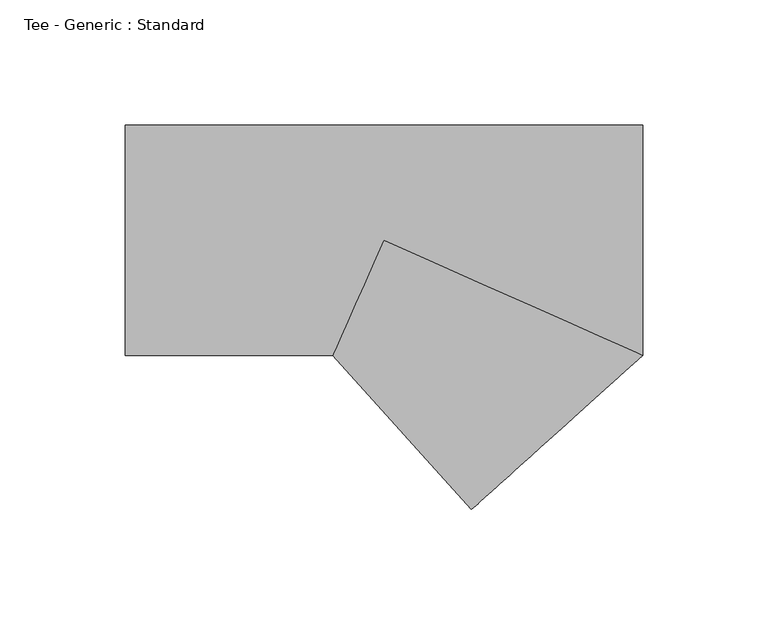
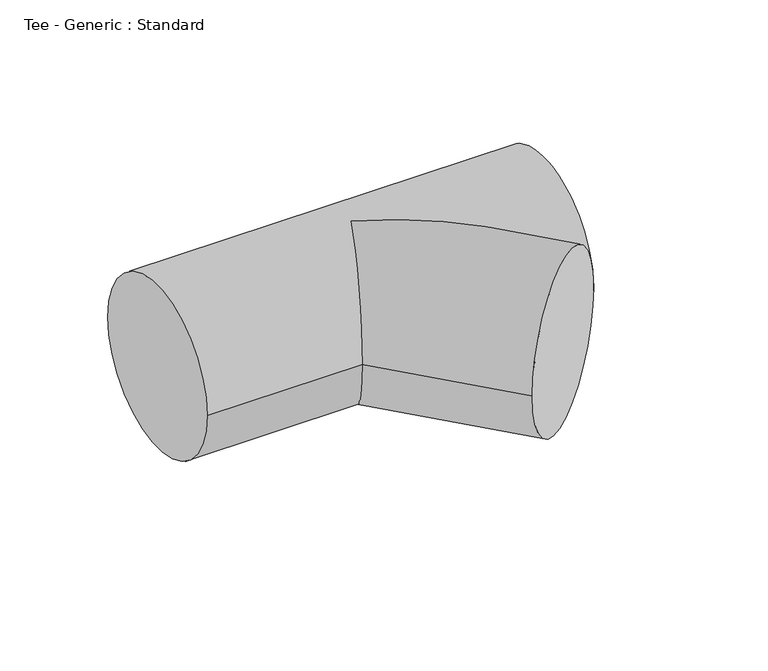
"""IFC4 building model written with IfcOpenShell, lengths in millimetres: pipe fitting geometry, Tee - Generic : Standard."""

from ifc_helpers import new_model, si_unit, frame, origin, place, context, project, spatial, circle_curve, ellipse_curve, source, transform, mapped, element, save
from ifc_brep_helpers import plane_surface, cylinder_surface, advanced_brep


def tee_generic_standard_8743326e(model_context):
    return source(origin(), model_context, "Body", "AdvancedBrep", [
        advanced_brep(
        [(-103.3828409, -46.0375, 0.0), (-103.3828409, 46.0375, 0.0), (103.3828409, -46.0375, 0.0), (103.3828409, 46.0375, 0.0), (-20.5009979, -46.0375, 0.0), (0.0, 0.0, 46.0375), (0.0, 0.0, -46.0375), (34.9493333, -107.638317, 0.0)],
        [
            (0, 1, circle_curve(frame((-103.3828409, 0.0, 0.0), z_axis=(-1.0, 0.0, 0.0), x_axis=(0.0, 1.0, 0.0)), 46.0375)),
            (1, 0, circle_curve(frame((-103.3828409, 0.0, 0.0), z_axis=(-1.0, 0.0, 0.0), x_axis=(0.0, 1.0, 0.0)), 46.0375)),
            (2, 3, circle_curve(frame((103.3828409, 0.0, 0.0), z_axis=(1.0, 0.0, 0.0), x_axis=(0.0, 1.0, 0.0)), 46.0375)),
            (3, 2, circle_curve(frame((103.3828409, 0.0, 0.0), z_axis=(1.0, 0.0, 0.0), x_axis=(0.0, 1.0, 0.0)), 46.0375)),
            (0, 4),
            (4, 5, ellipse_curve(frame((0.0, 0.0, 0.0), z_axis=(-0.9135175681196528, 0.4067992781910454, 0.0), x_axis=(-0.40679927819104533, -0.9135175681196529, 0.0)), 50.3958562, 46.0375)),
            (5, 2, ellipse_curve(frame((0.0, 0.0, 0.0), z_axis=(0.40679927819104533, 0.9135175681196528, 0.0), x_axis=(-0.9135175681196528, 0.4067992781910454, 0.0)), 113.1700631, 46.0375)),
            (3, 1),
            (2, 6, ellipse_curve(frame((0.0, 0.0, 0.0), z_axis=(0.40679927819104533, 0.9135175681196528, 0.0), x_axis=(-0.9135175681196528, 0.4067992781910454, 0.0)), 113.1700631, 46.0375)),
            (6, 4, ellipse_curve(frame((0.0, 0.0, 0.0), z_axis=(-0.9135175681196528, 0.4067992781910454, 0.0), x_axis=(-0.40679927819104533, -0.9135175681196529, 0.0)), 50.3958562, 46.0375)),
            (7, 2, circle_curve(frame((69.1660871, -76.8379085, 0.0), z_axis=(0.6690286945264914, -0.7432365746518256, 0.0), x_axis=(0.7432365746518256, 0.6690286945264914, 0.0)), 46.0375)),
            (2, 7, circle_curve(frame((69.1660871, -76.8379085, 0.0), z_axis=(0.6690286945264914, -0.7432365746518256, 0.0), x_axis=(0.7432365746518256, 0.6690286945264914, 0.0)), 46.0375)),
            (4, 7),
        ],
        [
            plane_surface(frame((-103.3828409, 0.0, 0.0), z_axis=(-1.0, 0.0, 0.0), x_axis=(0.0, 0.0, 1.0))),
            plane_surface(frame((103.3828409, 0.0, 0.0), z_axis=(1.0, 0.0, 0.0), x_axis=(0.0, 0.0, 1.0))),
            cylinder_surface(frame((-103.3828409, 0.0, 0.0), z_axis=(-1.0, 0.0, 0.0), x_axis=(0.0, 1.0, 0.0)), 46.0375),
            plane_surface(frame((69.1660871, -76.8379085, 0.0), z_axis=(0.6690286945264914, -0.7432365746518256, 0.0), x_axis=(0.0, 0.0, 1.0))),
            cylinder_surface(frame((0.0, 0.0, 0.0), z_axis=(-0.6690286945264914, 0.7432365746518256, 0.0), x_axis=(0.7432365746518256, 0.6690286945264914, 0.0)), 46.0375),
        ],
        [
            (0, [[1, 2]]),
            (1, [[3, 4]]),
            (2, [[-1, 5, 6, 7, -4, 8]]),
            (2, [[-2, -8, -3, 9, 10, -5]]),
            (3, [[11, 12]]),
            (4, [[-12, -7, -6, 13]]),
            (4, [[-11, -13, -10, -9]]),
        ],
    ),
    ])


if __name__ == "__main__":
    model = new_model("IFC4")
    model_context = context("Model", 3, world=origin())
    ifc_project = project(units=[si_unit("LENGTHUNIT", "METRE", prefix="MILLI")], contexts=[model_context])
    site = spatial("IfcSite", under=ifc_project)
    building = spatial("IfcBuilding", under=site)
    placement = place(None, origin())
    tee_generic_standard_shape = tee_generic_standard_8743326e(model_context)
    element("IfcPipeFitting", 1, ObjectType="Tee - Generic : Standard", at=placement, inside=building, context=model_context, shape_type="MappedRepresentation", body=[
        mapped(tee_generic_standard_shape, transform((0.0, 0.0, 0.0), x_axis=(1.0, 0.0, 0.0), y_axis=(0.0, 1.0, 0.0), z_axis=(0.0, 0.0, 1.0))),
    ])
    save(model, "model.ifc")
